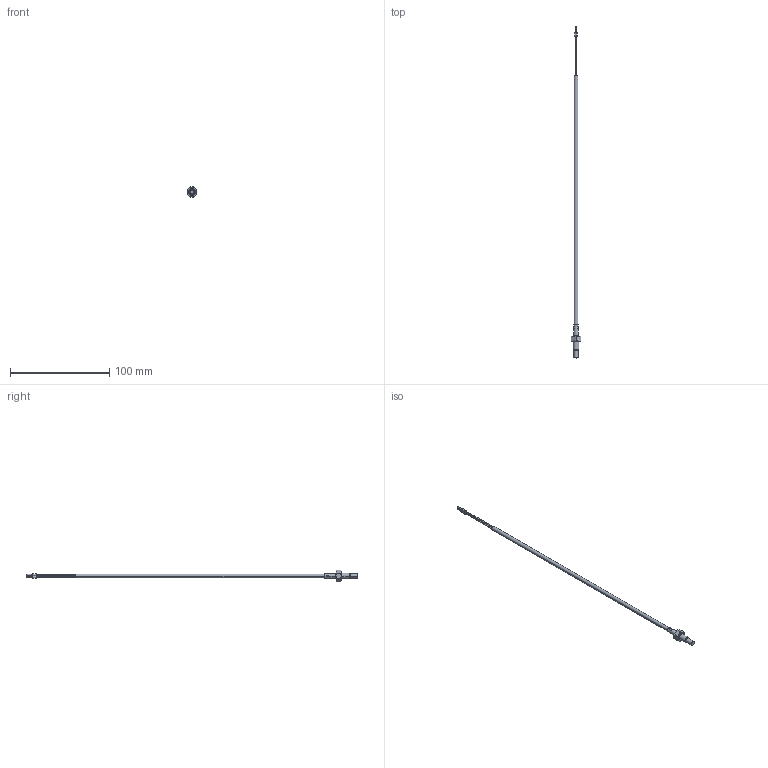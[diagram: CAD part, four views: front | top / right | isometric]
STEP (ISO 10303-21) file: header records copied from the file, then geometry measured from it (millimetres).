
FILE_DESCRIPTION((''),'2;1');
FILE_NAME('803151_2011_B2_E0006__SW0001','2024-02-12T10:48:00',('1700len-6572'),(''),'CREO PARAMETRIC BY PTC INC, 2021184','CREO PARAMETRIC BY PTC INC, 2021184','');
FILE_SCHEMA(('CONFIG_CONTROL_DESIGN','SHAPE_APPEARANCE_LAYERS_GROUPS'));
Length unit declared in the file: millimetre
Products named in the file (1): 803151_2011_B2_E0006__SW0001
Bounding box: 10 x 334 x 11.55 mm (x, y, z)
Volume: 4292.4 mm3; surface area: 4292.7 mm2
Topology: 1 solids, 1 shells, 84 faces, 180 edges, 112 vertices
Faces by surface type: plane 36, cylinder 24, cone 20, torus 4
Entity records: 3226 total; most frequent: CARTESIAN_POINT 484, DIRECTION 416, ORIENTED_EDGE 360, EDGE_CURVE 180, AXIS2_PLACEMENT_3D 176, FILL_AREA_STYLE_COLOUR 127, FILL_AREA_STYLE 127, SURFACE_STYLE_FILL_AREA 127
